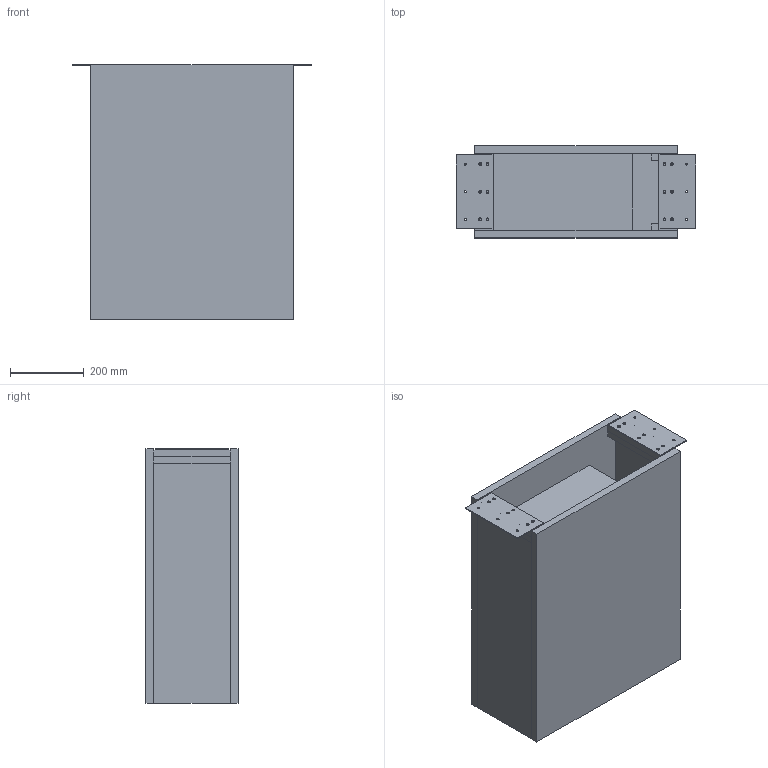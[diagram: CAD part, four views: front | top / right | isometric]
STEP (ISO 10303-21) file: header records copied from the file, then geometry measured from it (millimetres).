
FILE_DESCRIPTION(/* description */ (''),/* implementation_level */ '2;1');
FILE_NAME(/* name */ 'kinoshita_abord_配線ボックス付き中間脚',/* time_stamp */ '2025-08-27T17:33:08+09:00',/* author */ (''),/* organization */ (''),/* preprocessor_version */ 'ST-DEVELOPER v16.5',/* originating_system */ '',/* authorisation */ '');
FILE_SCHEMA (('AUTOMOTIVE_DESIGN'));
Length unit declared in the file: millimetre
Products named in the file (1): Document
Bounding box: 650 x 250 x 690 mm (x, y, z)
Volume: 27532903.3 mm3; surface area: 2742551.1 mm2
Topology: 6 solids, 6 shells, 1597 faces, 3743 edges, 2488 vertices
Faces by surface type: bspline 1176, plane 421
Entity records: 50147 total; most frequent: CARTESIAN_POINT 27825, ORIENTED_EDGE 7486, EDGE_CURVE 3743, VERTEX_POINT 2488, EDGE_LOOP 1947, ADVANCED_FACE 1597, FACE_OUTER_BOUND 1597, B_SPLINE_CURVE_WITH_KNOTS 1471
